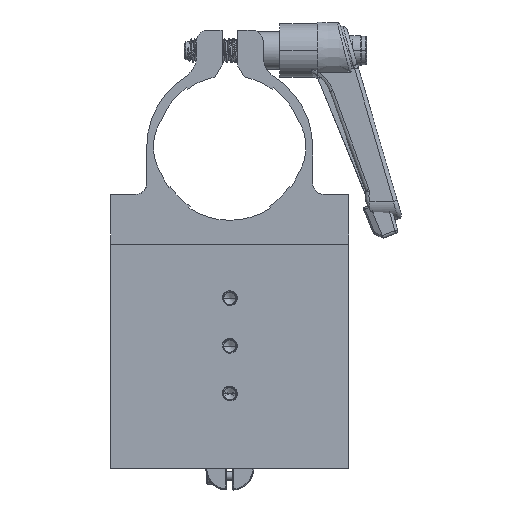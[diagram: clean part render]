
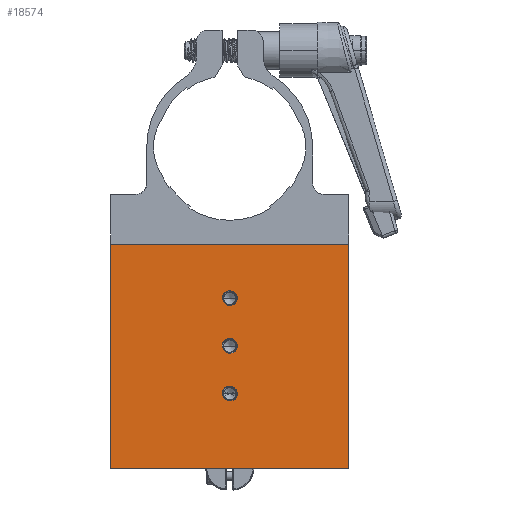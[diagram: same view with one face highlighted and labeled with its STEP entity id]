
A CAD part, front view. The second image highlights one B-rep face of the part: STEP entity #18574.
In plain terms, the highlighted planar face has unit normal (0, -1, 0).
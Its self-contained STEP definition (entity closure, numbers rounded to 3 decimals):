
#3268=DIRECTION('',(0.,0.,-1.));
#3269=VECTOR('',#3268,59.69);
#3270=CARTESIAN_POINT('',(31.75,-31.75,-25.908));
#3271=LINE('',#3270,#3269);
#3308=DIRECTION('',(-1.,0.,0.));
#3309=VECTOR('',#3308,63.5);
#3310=CARTESIAN_POINT('',(31.75,-31.75,-85.598));
#3311=LINE('',#3310,#3309);
#3464=DIRECTION('',(0.,0.,-1.));
#3465=VECTOR('',#3464,59.69);
#3466=CARTESIAN_POINT('',(-31.75,-31.75,-25.908));
#3467=LINE('',#3466,#3465);
#3468=DIRECTION('',(-1.,0.,0.));
#3469=VECTOR('',#3468,63.5);
#3470=CARTESIAN_POINT('',(31.75,-31.75,-25.908));
#3471=LINE('',#3470,#3469);
#3472=CARTESIAN_POINT('',(-1.796,-31.75,-41.017));
#3473=CARTESIAN_POINT('',(-1.866,-31.75,-40.868));
#3474=CARTESIAN_POINT('',(-1.964,-31.75,-40.559));
#3475=CARTESIAN_POINT('',(-1.985,-31.75,-40.23));
#3476=CARTESIAN_POINT('',(-1.973,-31.75,-40.061));
#3478=CARTESIAN_POINT('',(-0.473,-31.75,-38.443));
#3479=CARTESIAN_POINT('',(-0.305,-31.75,-38.419));
#3480=CARTESIAN_POINT('',(0.023,-31.75,-38.414));
#3481=CARTESIAN_POINT('',(0.339,-31.75,-38.488));
#3482=CARTESIAN_POINT('',(0.494,-31.75,-38.547));
#3484=CARTESIAN_POINT('',(-1.973,-31.75,-40.061));
#3485=CARTESIAN_POINT('',(-1.948,-31.75,-39.906));
#3486=CARTESIAN_POINT('',(-1.863,-31.75,-39.61));
#3487=CARTESIAN_POINT('',(-1.631,-31.75,-39.197));
#3488=CARTESIAN_POINT('',(-1.312,-31.75,-38.852));
#3489=CARTESIAN_POINT('',(-0.92,-31.75,-38.59));
#3490=CARTESIAN_POINT('',(-0.628,-31.75,-38.48));
#3491=CARTESIAN_POINT('',(-0.473,-31.75,-38.443));
#3493=CARTESIAN_POINT('',(-1.796,-31.75,-53.717));
#3494=CARTESIAN_POINT('',(-1.866,-31.75,-53.568));
#3495=CARTESIAN_POINT('',(-1.964,-31.75,-53.259));
#3496=CARTESIAN_POINT('',(-1.985,-31.75,-52.93));
#3497=CARTESIAN_POINT('',(-1.973,-31.75,-52.761));
#3499=CARTESIAN_POINT('',(-0.473,-31.75,-51.143));
#3500=CARTESIAN_POINT('',(-0.305,-31.75,-51.119));
#3501=CARTESIAN_POINT('',(0.023,-31.75,-51.114));
#3502=CARTESIAN_POINT('',(0.339,-31.75,-51.188));
#3503=CARTESIAN_POINT('',(0.494,-31.75,-51.247));
#3505=CARTESIAN_POINT('',(-1.973,-31.75,-52.761));
#3506=CARTESIAN_POINT('',(-1.948,-31.75,-52.606));
#3507=CARTESIAN_POINT('',(-1.863,-31.75,-52.31));
#3508=CARTESIAN_POINT('',(-1.631,-31.75,-51.898));
#3509=CARTESIAN_POINT('',(-1.312,-31.75,-51.552));
#3510=CARTESIAN_POINT('',(-0.92,-31.75,-51.29));
#3511=CARTESIAN_POINT('',(-0.628,-31.75,-51.181));
#3512=CARTESIAN_POINT('',(-0.473,-31.75,-51.143));
#3514=CARTESIAN_POINT('',(-1.796,-31.75,-66.417));
#3515=CARTESIAN_POINT('',(-1.866,-31.75,-66.268));
#3516=CARTESIAN_POINT('',(-1.964,-31.75,-65.959));
#3517=CARTESIAN_POINT('',(-1.985,-31.75,-65.63));
#3518=CARTESIAN_POINT('',(-1.973,-31.75,-65.461));
#3520=CARTESIAN_POINT('',(-0.473,-31.75,-63.843));
#3521=CARTESIAN_POINT('',(-0.305,-31.75,-63.819));
#3522=CARTESIAN_POINT('',(0.023,-31.75,-63.814));
#3523=CARTESIAN_POINT('',(0.339,-31.75,-63.888));
#3524=CARTESIAN_POINT('',(0.494,-31.75,-63.947));
#3526=CARTESIAN_POINT('',(-1.973,-31.75,-65.461));
#3527=CARTESIAN_POINT('',(-1.948,-31.75,-65.306));
#3528=CARTESIAN_POINT('',(-1.863,-31.75,-65.01));
#3529=CARTESIAN_POINT('',(-1.631,-31.75,-64.598));
#3530=CARTESIAN_POINT('',(-1.312,-31.75,-64.252));
#3531=CARTESIAN_POINT('',(-0.92,-31.75,-63.99));
#3532=CARTESIAN_POINT('',(-0.628,-31.75,-63.881));
#3533=CARTESIAN_POINT('',(-0.473,-31.75,-63.843));
#4979=CARTESIAN_POINT('',(0.,-31.75,-40.386));
#4980=DIRECTION('',(0.,1.,0.));
#4981=DIRECTION('',(0.259,0.,0.966));
#4982=AXIS2_PLACEMENT_3D('',#4979,#4980,#4981);
#4990=CARTESIAN_POINT('',(-1.796,-31.75,-41.017));
#6428=CARTESIAN_POINT('',(0.,-31.75,-53.086));
#6429=DIRECTION('',(0.,1.,0.));
#6430=DIRECTION('',(0.259,0.,0.966));
#6431=AXIS2_PLACEMENT_3D('',#6428,#6429,#6430);
#6439=CARTESIAN_POINT('',(-1.796,-31.75,-53.717));
#6454=CARTESIAN_POINT('',(0.,-31.75,-65.786));
#6455=DIRECTION('',(0.,1.,0.));
#6456=DIRECTION('',(0.259,0.,0.966));
#6457=AXIS2_PLACEMENT_3D('',#6454,#6455,#6456);
#6465=CARTESIAN_POINT('',(-1.796,-31.75,-66.417));
#17607=CARTESIAN_POINT('',(31.75,-31.75,-85.598));
#17608=CARTESIAN_POINT('',(-31.75,-31.75,-85.598));
#17609=VERTEX_POINT('',#17607);
#17610=VERTEX_POINT('',#17608);
#17629=CARTESIAN_POINT('',(31.75,-31.75,-25.908));
#17630=CARTESIAN_POINT('',(-31.75,-31.75,-25.908));
#17631=VERTEX_POINT('',#17629);
#17632=VERTEX_POINT('',#17630);
#18174=VERTEX_POINT('',#4990);
#18175=VERTEX_POINT('',#3476);
#18176=VERTEX_POINT('',#3491);
#18177=VERTEX_POINT('',#3482);
#18242=VERTEX_POINT('',#6439);
#18243=VERTEX_POINT('',#3497);
#18244=VERTEX_POINT('',#3512);
#18245=VERTEX_POINT('',#3503);
#18263=VERTEX_POINT('',#6465);
#18304=VERTEX_POINT('',#3518);
#18305=VERTEX_POINT('',#3533);
#18306=VERTEX_POINT('',#3524);
#18533=CARTESIAN_POINT('',(-31.75,-31.75,-85.598));
#18534=DIRECTION('',(0.,1.,0.));
#18535=DIRECTION('',(0.,0.,-1.));
#18536=AXIS2_PLACEMENT_3D('',#18533,#18534,#18535);
#18537=PLANE('',#18536);
#18538=ORIENTED_EDGE('',*,*,#18334,.T.);
#18539=ORIENTED_EDGE('',*,*,#18364,.T.);
#18540=ORIENTED_EDGE('',*,*,#18458,.F.);
#18541=ORIENTED_EDGE('',*,*,#18508,.F.);
#18542=EDGE_LOOP('',(#18538,#18539,#18540,#18541));
#18543=FACE_OUTER_BOUND('',#18542,.F.);
#18545=ORIENTED_EDGE('',*,*,#18544,.F.);
#18547=ORIENTED_EDGE('',*,*,#18546,.F.);
#18549=ORIENTED_EDGE('',*,*,#18548,.F.);
#18551=ORIENTED_EDGE('',*,*,#18550,.F.);
#18552=EDGE_LOOP('',(#18545,#18547,#18549,#18551));
#18553=FACE_BOUND('',#18552,.F.);
#18555=ORIENTED_EDGE('',*,*,#18554,.F.);
#18557=ORIENTED_EDGE('',*,*,#18556,.F.);
#18559=ORIENTED_EDGE('',*,*,#18558,.F.);
#18561=ORIENTED_EDGE('',*,*,#18560,.F.);
#18562=EDGE_LOOP('',(#18555,#18557,#18559,#18561));
#18563=FACE_BOUND('',#18562,.F.);
#18565=ORIENTED_EDGE('',*,*,#18564,.F.);
#18567=ORIENTED_EDGE('',*,*,#18566,.F.);
#18569=ORIENTED_EDGE('',*,*,#18568,.F.);
#18571=ORIENTED_EDGE('',*,*,#18570,.F.);
#18572=EDGE_LOOP('',(#18565,#18567,#18569,#18571));
#18573=FACE_BOUND('',#18572,.F.);
#18574=ADVANCED_FACE('',(#18543,#18553,#18563,#18573),#18537,.F.);
#3477=B_SPLINE_CURVE_WITH_KNOTS('',3,(#3472,#3473,#3474,#3475,#3476),
.UNSPECIFIED.,.F.,.F.,(4,1,4),(0.,0.5,1.),.UNSPECIFIED.);
#3483=B_SPLINE_CURVE_WITH_KNOTS('',3,(#3478,#3479,#3480,#3481,#3482),
.UNSPECIFIED.,.F.,.F.,(4,1,4),(0.,0.5,1.),.UNSPECIFIED.);
#3492=B_SPLINE_CURVE_WITH_KNOTS('',3,(#3484,#3485,#3486,#3487,#3488,#3489,#3490,
#3491),.UNSPECIFIED.,.F.,.F.,(4,1,1,1,1,4),(0.,0.2,0.4,0.6,0.8,1.),
.UNSPECIFIED.);
#3498=B_SPLINE_CURVE_WITH_KNOTS('',3,(#3493,#3494,#3495,#3496,#3497),
.UNSPECIFIED.,.F.,.F.,(4,1,4),(0.,0.5,1.),.UNSPECIFIED.);
#3504=B_SPLINE_CURVE_WITH_KNOTS('',3,(#3499,#3500,#3501,#3502,#3503),
.UNSPECIFIED.,.F.,.F.,(4,1,4),(0.,0.5,1.),.UNSPECIFIED.);
#3513=B_SPLINE_CURVE_WITH_KNOTS('',3,(#3505,#3506,#3507,#3508,#3509,#3510,#3511,
#3512),.UNSPECIFIED.,.F.,.F.,(4,1,1,1,1,4),(0.,0.2,0.4,0.6,0.8,1.),
.UNSPECIFIED.);
#3519=B_SPLINE_CURVE_WITH_KNOTS('',3,(#3514,#3515,#3516,#3517,#3518),
.UNSPECIFIED.,.F.,.F.,(4,1,4),(0.,0.5,1.),.UNSPECIFIED.);
#3525=B_SPLINE_CURVE_WITH_KNOTS('',3,(#3520,#3521,#3522,#3523,#3524),
.UNSPECIFIED.,.F.,.F.,(4,1,4),(0.,0.5,1.),.UNSPECIFIED.);
#3534=B_SPLINE_CURVE_WITH_KNOTS('',3,(#3526,#3527,#3528,#3529,#3530,#3531,#3532,
#3533),.UNSPECIFIED.,.F.,.F.,(4,1,1,1,1,4),(0.,0.2,0.4,0.6,0.8,1.),
.UNSPECIFIED.);
#4983=CIRCLE('',#4982,1.904);
#6432=CIRCLE('',#6431,1.904);
#6458=CIRCLE('',#6457,1.904);
#18334=EDGE_CURVE('',#17631,#17609,#3271,.T.);
#18364=EDGE_CURVE('',#17609,#17610,#3311,.T.);
#18458=EDGE_CURVE('',#17632,#17610,#3467,.T.);
#18508=EDGE_CURVE('',#17631,#17632,#3471,.T.);
#18544=EDGE_CURVE('',#18174,#18175,#3477,.T.);
#18546=EDGE_CURVE('',#18177,#18174,#4983,.T.);
#18548=EDGE_CURVE('',#18176,#18177,#3483,.T.);
#18550=EDGE_CURVE('',#18175,#18176,#3492,.T.);
#18554=EDGE_CURVE('',#18242,#18243,#3498,.T.);
#18556=EDGE_CURVE('',#18245,#18242,#6432,.T.);
#18558=EDGE_CURVE('',#18244,#18245,#3504,.T.);
#18560=EDGE_CURVE('',#18243,#18244,#3513,.T.);
#18564=EDGE_CURVE('',#18263,#18304,#3519,.T.);
#18566=EDGE_CURVE('',#18306,#18263,#6458,.T.);
#18568=EDGE_CURVE('',#18305,#18306,#3525,.T.);
#18570=EDGE_CURVE('',#18304,#18305,#3534,.T.);
